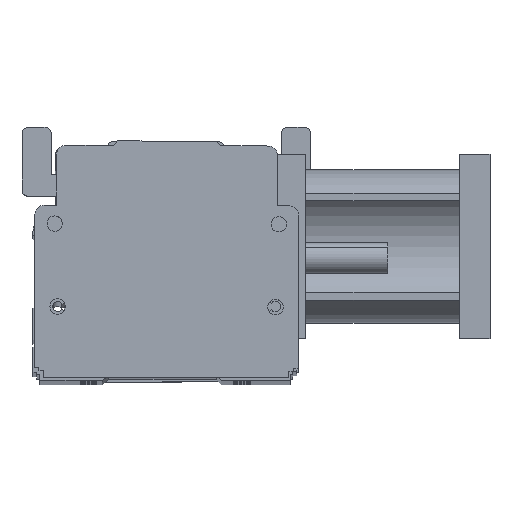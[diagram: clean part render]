
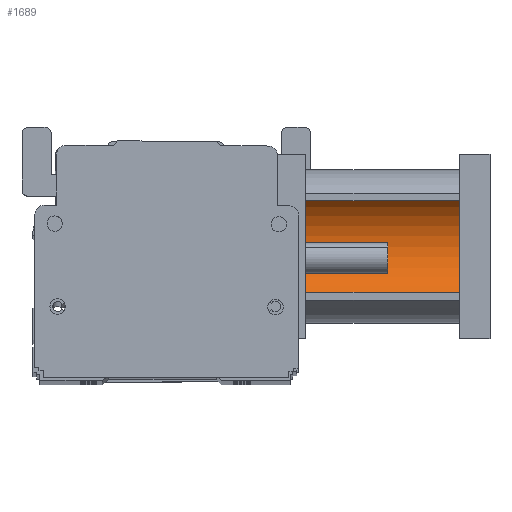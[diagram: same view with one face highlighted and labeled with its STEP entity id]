
A CAD part, top view. The second image highlights one B-rep face of the part: STEP entity #1689.
In plain terms, the highlighted cylindrical face has radius 20 mm (diameter 40 mm), a partial arc.
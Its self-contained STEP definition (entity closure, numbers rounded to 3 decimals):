
#30 = CARTESIAN_POINT ( 'NONE',  ( 30., 30., 70. ) ) ;
#1689 = ADVANCED_FACE ( 'NONE', ( #21322 ), #7324, .F. ) ;
#2570 = DIRECTION ( 'NONE',  ( 1., 0., 0. ) ) ;
#3005 = EDGE_LOOP ( 'NONE', ( #6153, #23952, #15974, #20531 ) ) ;
#4451 = AXIS2_PLACEMENT_3D ( 'NONE', #22057, #7166, #24554 ) ;
#5082 = CARTESIAN_POINT ( 'NONE',  ( 10., 30., 65. ) ) ;
#6153 = ORIENTED_EDGE ( 'NONE', *, *, #9075, .T. ) ;
#7166 = DIRECTION ( 'NONE',  ( 0., 0., -1. ) ) ;
#7251 = DIRECTION ( 'NONE',  ( 0., 0., -1. ) ) ;
#7324 = CYLINDRICAL_SURFACE ( 'NONE', #26238, 20. ) ;
#7481 = CARTESIAN_POINT ( 'NONE',  ( 30., 30., 65. ) ) ;
#7579 = DIRECTION ( 'NONE',  ( -1., 0., 0. ) ) ;
#7779 = DIRECTION ( 'NONE',  ( 0., 0., -1. ) ) ;
#9075 = EDGE_CURVE ( 'NONE', #10121, #11920, #9828, .T. ) ;
#9828 = CIRCLE ( 'NONE', #20390, 20. ) ;
#10121 = VERTEX_POINT ( 'NONE', #12323 ) ;
#10313 = VECTOR ( 'NONE', #7779, 1000. ) ;
#11882 = EDGE_CURVE ( 'NONE', #10121, #18554, #24632, .T. ) ;
#11920 = VERTEX_POINT ( 'NONE', #30065 ) ;
#12079 = VERTEX_POINT ( 'NONE', #23115 ) ;
#12323 = CARTESIAN_POINT ( 'NONE',  ( 10., 30., 70. ) ) ;
#12559 = DIRECTION ( 'NONE',  ( 0., 0., -1. ) ) ;
#15974 = ORIENTED_EDGE ( 'NONE', *, *, #20766, .T. ) ;
#16192 = CIRCLE ( 'NONE', #4451, 20. ) ;
#17166 = CARTESIAN_POINT ( 'NONE',  ( 10., 30., 15. ) ) ;
#17208 = VECTOR ( 'NONE', #12559, 1000. ) ;
#17435 = DIRECTION ( 'NONE',  ( 0., 0., 1. ) ) ;
#18554 = VERTEX_POINT ( 'NONE', #17166 ) ;
#20390 = AXIS2_PLACEMENT_3D ( 'NONE', #30, #17435, #2570 ) ;
#20531 = ORIENTED_EDGE ( 'NONE', *, *, #11882, .F. ) ;
#20766 = EDGE_CURVE ( 'NONE', #12079, #18554, #16192, .T. ) ;
#21322 = FACE_OUTER_BOUND ( 'NONE', #3005, .T. ) ;
#22057 = CARTESIAN_POINT ( 'NONE',  ( 30., 30., 15. ) ) ;
#23115 = CARTESIAN_POINT ( 'NONE',  ( 50., 30., 15. ) ) ;
#23526 = LINE ( 'NONE', #27556, #10313 ) ;
#23952 = ORIENTED_EDGE ( 'NONE', *, *, #25108, .T. ) ;
#24554 = DIRECTION ( 'NONE',  ( -1., 0., 0. ) ) ;
#24632 = LINE ( 'NONE', #5082, #17208 ) ;
#25108 = EDGE_CURVE ( 'NONE', #11920, #12079, #23526, .T. ) ;
#26238 = AXIS2_PLACEMENT_3D ( 'NONE', #7481, #7251, #7579 ) ;
#27556 = CARTESIAN_POINT ( 'NONE',  ( 50., 30., 65. ) ) ;
#30065 = CARTESIAN_POINT ( 'NONE',  ( 50., 30., 70. ) ) ;
